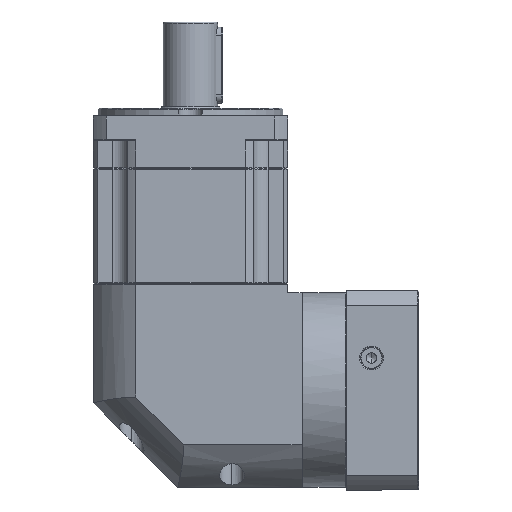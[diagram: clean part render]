
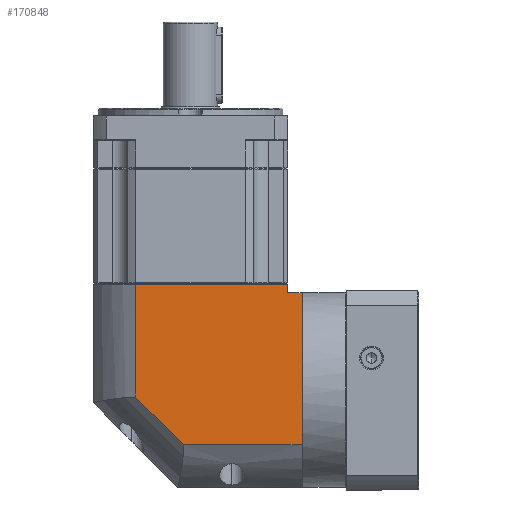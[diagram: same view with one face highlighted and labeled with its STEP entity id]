
A CAD part, left-side view. The second image highlights one B-rep face of the part: STEP entity #170848.
In plain terms, the highlighted planar face has unit normal (-1, 0, 0).
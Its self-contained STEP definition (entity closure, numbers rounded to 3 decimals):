
#2233 = CARTESIAN_POINT ( 'NONE',  ( -239.768, 37.382, 23.697 ) ) ;
#9402 = EDGE_CURVE ( 'NONE', #60014, #25746, #83526, .T. ) ;
#11169 = VERTEX_POINT ( 'NONE', #51094 ) ;
#11834 = ORIENTED_EDGE ( 'NONE', *, *, #73472, .F. ) ;
#13402 = EDGE_CURVE ( 'NONE', #53061, #48107, #98500, .T. ) ;
#18803 = DIRECTION ( 'NONE',  ( 1., 0., 0. ) ) ;
#22636 = EDGE_CURVE ( 'NONE', #80428, #91457, #171190, .T. ) ;
#24239 = EDGE_CURVE ( 'NONE', #48107, #25746, #79150, .T. ) ;
#24287 = ORIENTED_EDGE ( 'NONE', *, *, #22636, .F. ) ;
#25746 = VERTEX_POINT ( 'NONE', #85226 ) ;
#27946 = LINE ( 'NONE', #58569, #63644 ) ;
#28499 = CARTESIAN_POINT ( 'NONE',  ( -239.768, -77.618, 113.597 ) ) ;
#38644 = CARTESIAN_POINT ( 'NONE',  ( -239.768, 12.282, 118.597 ) ) ;
#45264 = PLANE ( 'NONE',  #103002 ) ;
#46496 = DIRECTION ( 'NONE',  ( 0., 0.707, 0.707 ) ) ;
#47789 = VECTOR ( 'NONE', #67034, 1000. ) ;
#48107 = VERTEX_POINT ( 'NONE', #142924 ) ;
#51094 = CARTESIAN_POINT ( 'NONE',  ( -239.768, -86.018, 23.697 ) ) ;
#51709 = CARTESIAN_POINT ( 'NONE',  ( -239.768, -77.618, -1.403 ) ) ;
#52247 = CARTESIAN_POINT ( 'NONE',  ( -239.768, -86.018, 113.597 ) ) ;
#53061 = VERTEX_POINT ( 'NONE', #52247 ) ;
#53720 = ORIENTED_EDGE ( 'NONE', *, *, #13402, .T. ) ;
#58252 = EDGE_LOOP ( 'NONE', ( #11834, #24287, #91127, #110582, #53720, #125969, #94065 ) ) ;
#58569 = CARTESIAN_POINT ( 'NONE',  ( -239.768, 12.282, 125.097 ) ) ;
#59302 = LINE ( 'NONE', #2233, #90750 ) ;
#59344 = CARTESIAN_POINT ( 'NONE',  ( -239.768, 12.282, 52.035 ) ) ;
#60014 = VERTEX_POINT ( 'NONE', #38644 ) ;
#63644 = VECTOR ( 'NONE', #139004, 1000. ) ;
#67034 = DIRECTION ( 'NONE',  ( 0., -1., 0. ) ) ;
#68296 = VECTOR ( 'NONE', #46496, 1000. ) ;
#69932 = LINE ( 'NONE', #170813, #141383 ) ;
#73472 = EDGE_CURVE ( 'NONE', #91457, #60014, #27946, .T. ) ;
#79150 = LINE ( 'NONE', #51709, #146375 ) ;
#80428 = VERTEX_POINT ( 'NONE', #171671 ) ;
#83526 = LINE ( 'NONE', #119809, #47789 ) ;
#85226 = CARTESIAN_POINT ( 'NONE',  ( -239.768, -77.618, 118.597 ) ) ;
#86381 = CARTESIAN_POINT ( 'NONE',  ( -239.768, -16.056, 23.697 ) ) ;
#90750 = VECTOR ( 'NONE', #96132, 1000. ) ;
#90752 = EDGE_CURVE ( 'NONE', #11169, #80428, #59302, .T. ) ;
#91127 = ORIENTED_EDGE ( 'NONE', *, *, #90752, .F. ) ;
#91457 = VERTEX_POINT ( 'NONE', #59344 ) ;
#94065 = ORIENTED_EDGE ( 'NONE', *, *, #9402, .F. ) ;
#96132 = DIRECTION ( 'NONE',  ( 0., 1., 0. ) ) ;
#98500 = LINE ( 'NONE', #28499, #134279 ) ;
#99205 = CARTESIAN_POINT ( 'NONE',  ( -239.768, 37.382, 125.097 ) ) ;
#103002 = AXIS2_PLACEMENT_3D ( 'NONE', #99205, #18803, #112749 ) ;
#108905 = DIRECTION ( 'NONE',  ( 0., 1., 0. ) ) ;
#110582 = ORIENTED_EDGE ( 'NONE', *, *, #164248, .F. ) ;
#112749 = DIRECTION ( 'NONE',  ( 0., 1., 0. ) ) ;
#119809 = CARTESIAN_POINT ( 'NONE',  ( -239.768, 37.382, 118.597 ) ) ;
#119877 = FACE_OUTER_BOUND ( 'NONE', #58252, .T. ) ;
#125969 = ORIENTED_EDGE ( 'NONE', *, *, #24239, .T. ) ;
#134279 = VECTOR ( 'NONE', #108905, 1000. ) ;
#139004 = DIRECTION ( 'NONE',  ( 0., 0., 1. ) ) ;
#141383 = VECTOR ( 'NONE', #145007, 1000. ) ;
#142924 = CARTESIAN_POINT ( 'NONE',  ( -239.768, -77.618, 113.597 ) ) ;
#145007 = DIRECTION ( 'NONE',  ( 0., 0., -1. ) ) ;
#145701 = DIRECTION ( 'NONE',  ( 0., 0., 1. ) ) ;
#146375 = VECTOR ( 'NONE', #145701, 1000. ) ;
#164248 = EDGE_CURVE ( 'NONE', #53061, #11169, #69932, .T. ) ;
#170813 = CARTESIAN_POINT ( 'NONE',  ( -239.768, -86.018, 125.097 ) ) ;
#170848 = ADVANCED_FACE ( 'NONE', ( #119877 ), #45264, .F. ) ;
#171190 = LINE ( 'NONE', #86381, #68296 ) ;
#171671 = CARTESIAN_POINT ( 'NONE',  ( -239.768, -16.056, 23.697 ) ) ;
